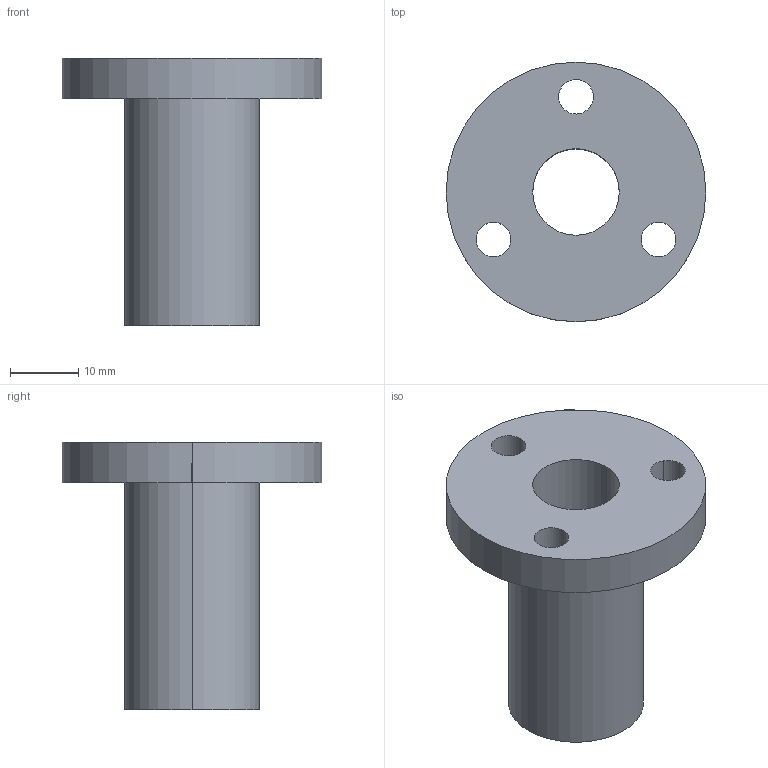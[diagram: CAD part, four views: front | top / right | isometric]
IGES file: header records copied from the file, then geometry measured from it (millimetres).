
Global section: file name: C:\Documents and Settings\Administrator\Desktop\Transfer Temp\ballnut.igs; native system: AutoDesk Inventor R2.0 ; preprocessor: AutoDesk Inventor Iges Exporter R2.0; author: No Author specified; organization: No Organization specified; date: 20011207.171219; units: inch
Bounding box: 38.1 x 38.1 x 39.27 mm (x, y, z)
Surface area: 6542.1 mm2 (no closed solid volume)
Topology: 0 solids, 0 shells, 15 faces, 72 edges, 72 vertices
Faces by surface type: bspline 9, revolution 6
